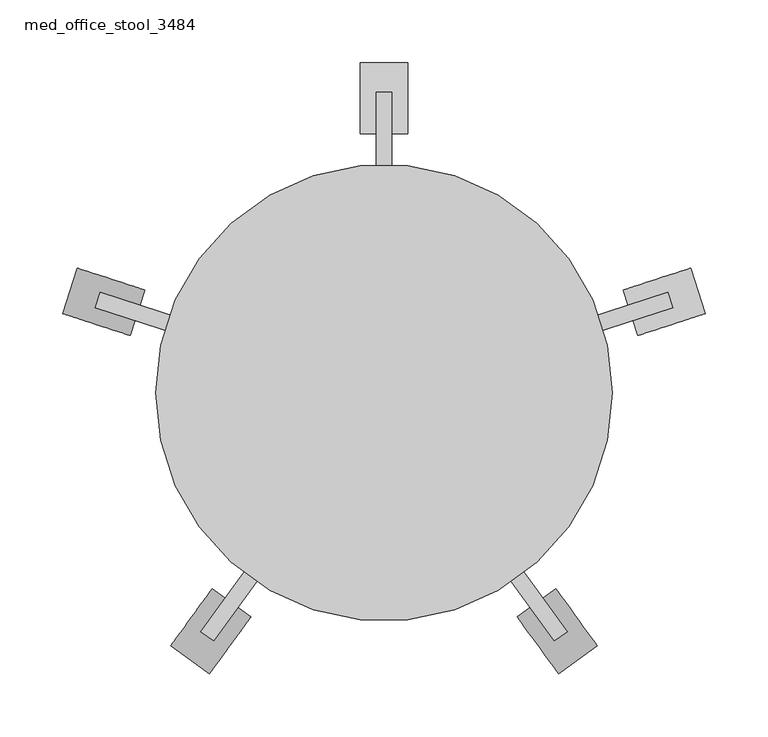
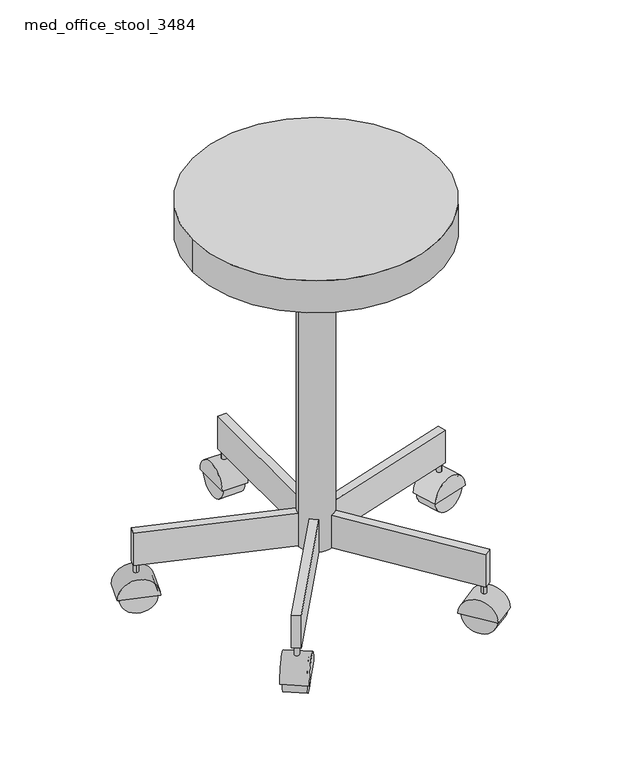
"""IFC4 building model written with IfcOpenShell, lengths in millimetres: furniture geometry, med_office_stool_3484 : pedagogstol fra Mock Up."""

from ifc_helpers import new_model, si_unit, point, frame, frame_2d, origin, origin_2d, place, context, project, spatial, polyline, circle_curve, trimmed, segment, composite_curve, outline, extrude, source, transform, mapped, element, save


def med_office_stool_3484_8b387840(model_context):
    return source(origin(), model_context, "Body", "SweptSolid", [
        extrude(outline(composite_curve([segment(trimmed(circle_curve(frame_2d((0.0, -25.7612183)), 25.7612183), [point((0.0, -51.5224365))], [point((0.0, 0.0))], False, "CARTESIAN"), True, "CONTINUOUS"), segment(trimmed(circle_curve(frame_2d((0.0, -25.7612183)), 25.7612183), [point((0.0, 0.0))], [point((0.0, -51.5224365))], False, "CARTESIAN"), True, "CONTINUOUS")], self_intersect=False)), frame((252.8567313, 65.4661695, 25.7612183), z_axis=(-0.30901699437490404, 0.9510565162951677, 0.0), x_axis=(0.0, 0.0, 1.0)), (0.0, 0.0, 1.0), 31.75),
        extrude(outline(composite_curve([segment(polyline([(-57.1058784, 0.0), (-0.678315, 0.0)]), True, "CONTINUOUS"), segment(trimmed(circle_curve(frame_2d((-28.8920968, 0.0)), 28.2137817), [point((-0.678315, 0.0))], [point((-57.1058784, 0.0))], False, "CARTESIAN"), True, "CONTINUOUS")], self_intersect=False)), frame((256.8155026, 63.4140597, 25.7612183), z_axis=(-0.30901699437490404, 0.9510565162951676, 0.0), x_axis=(0.9510565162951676, 0.30901699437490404, 0.0)), (0.0, 0.0, 1.0), 38.1),
        extrude(outline(composite_curve([segment(trimmed(circle_curve(frame_2d((223.4509477, 72.6028121)), 3.5091751), [point((222.3665529, 75.940236))], [point((224.5353424, 69.2653883))], False, "CARTESIAN"), True, "CONTINUOUS"), segment(trimmed(circle_curve(frame_2d((223.4509477, 72.6028121)), 3.5091751), [point((224.5353424, 69.2653883))], [point((222.3665529, 75.940236))], False, "CARTESIAN"), True, "CONTINUOUS")], self_intersect=False)), frame((0.0, 0.0, 53.975), z_axis=(0.0, 0.0, 1.0), x_axis=(1.0, 0.0, 0.0)), (0.0, 0.0, 1.0), 13.49375),
        extrude(outline(polyline([(230.0293313, 68.0638809), (25.3978935, 1.5750963), (21.4736172, 13.6527769), (226.105055, 80.1415615), (230.0293313, 68.0638809)])), frame((0.0, 0.0, 67.46875), z_axis=(0.0, 0.0, 1.0), x_axis=(1.0, 0.0, 0.0)), (0.0, 0.0, 1.0), 50.8),
        extrude(outline(composite_curve([segment(trimmed(circle_curve(frame_2d((0.0, -25.7612182)), 25.7612183), [point((0.0, -51.5224365))], [point((0.0, 0.0))], False, "CARTESIAN"), True, "CONTINUOUS"), segment(trimmed(circle_curve(frame_2d((0.0, -25.7612182)), 25.7612183), [point((0.0, 0.0))], [point((0.0, -51.5224365))], False, "CARTESIAN"), True, "CONTINUOUS")], self_intersect=False)), frame((140.3990542, -220.250883, 25.7612183), z_axis=(0.8090169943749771, 0.5877852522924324, 0.0), x_axis=(0.0, 0.0, 1.0)), (0.0, 0.0, 1.0), 31.75),
        extrude(outline(composite_curve([segment(polyline([(-57.1058785, 0.0), (-0.6783149, 0.0)]), True, "CONTINUOUS"), segment(trimmed(circle_curve(frame_2d((-28.8920966, 0.0)), 28.2137817), [point((-0.6783149, 0.0))], [point((-57.1058785, 0.0))], False, "CARTESIAN"), True, "CONTINUOUS")], self_intersect=False)), frame((139.6707094, -224.6500351, 25.7612183), z_axis=(0.809016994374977, 0.5877852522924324, 0.0), x_axis=(0.5877852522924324, -0.809016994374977, 0.0)), (0.0, 0.0, 1.0), 38.1),
        extrude(outline(composite_curve([segment(trimmed(circle_curve(frame_2d((138.0995178, -190.0789771)), 3.5091751), [point((140.9385001, -188.0163357))], [point((135.2605355, -192.1416185))], False, "CARTESIAN"), True, "CONTINUOUS"), segment(trimmed(circle_curve(frame_2d((138.0995178, -190.0789771)), 3.5091751), [point((135.2605355, -192.1416185))], [point((140.9385001, -188.0163357))], False, "CARTESIAN"), True, "CONTINUOUS")], self_intersect=False)), frame((0.0, 0.0, 53.975), z_axis=(0.0, 0.0, 1.0), x_axis=(1.0, 0.0, 0.0)), (0.0, 0.0, 1.0), 13.49375),
        extrude(outline(polyline([(135.81557, -197.7379985), (9.3463863, -23.6681006), (19.620275, -16.2036835), (146.0894588, -190.2735815), (135.81557, -197.7379985)])), frame((0.0, 0.0, 67.46875), z_axis=(0.0, 0.0, 1.0), x_axis=(1.0, 0.0, 0.0)), (0.0, 0.0, 1.0), 50.8),
        extrude(outline(composite_curve([segment(trimmed(circle_curve(frame_2d((0.0, -25.7612182)), 25.7612183), [point((0.0, -51.5224365))], [point((0.0, 0.0))], False, "CARTESIAN"), True, "CONTINUOUS"), segment(trimmed(circle_curve(frame_2d((0.0, -25.7612182)), 25.7612183), [point((0.0, 0.0))], [point((0.0, -51.5224365))], False, "CARTESIAN"), True, "CONTINUOUS")], self_intersect=False)), frame((-140.3990542, -220.250883, 25.7612183), z_axis=(-0.8090169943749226, 0.5877852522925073, 0.0), x_axis=(0.0, 0.0, -1.0)), (0.0, 0.0, 1.0), 31.75),
        extrude(outline(composite_curve([segment(trimmed(circle_curve(frame_2d((28.8920966, 0.0)), 28.2137817), [point((57.1058785, 0.0))], [point((0.6783149, 0.0))], False, "CARTESIAN"), True, "CONTINUOUS"), segment(polyline([(0.6783149, 0.0), (57.1058785, 0.0)]), True, "CONTINUOUS")], self_intersect=False)), frame((-139.6707094, -224.6500351, 25.7612183), z_axis=(-0.8090169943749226, 0.5877852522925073, 0.0), x_axis=(0.5877852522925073, 0.8090169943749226, 0.0)), (0.0, 0.0, 1.0), 38.1),
        extrude(outline(composite_curve([segment(trimmed(circle_curve(frame_2d((-138.1007518, -190.0780805)), 3.5091751), [point((-135.2617695, -192.1407219))], [point((-140.9397341, -188.0154391))], False, "CARTESIAN"), True, "CONTINUOUS"), segment(trimmed(circle_curve(frame_2d((-138.1007518, -190.0780805)), 3.5091751), [point((-140.9397341, -188.0154391))], [point((-135.2617695, -192.1407219))], False, "CARTESIAN"), True, "CONTINUOUS")], self_intersect=False)), frame((0.0, 0.0, 53.975), z_axis=(0.0, 0.0, 1.0), x_axis=(1.0, 0.0, 0.0)), (0.0, 0.0, 1.0), 13.49375),
        extrude(outline(polyline([(-146.0906928, -190.2726849), (-19.6215091, -16.2027869), (-9.3476203, -23.667204), (-135.8168041, -197.737102), (-146.0906928, -190.2726849)])), frame((0.0, 0.0, 67.46875), z_axis=(0.0, 0.0, 1.0), x_axis=(1.0, 0.0, 0.0)), (0.0, 0.0, 1.0), 50.8),
        extrude(outline(composite_curve([segment(trimmed(circle_curve(frame_2d((0.0, -25.7612183)), 25.7612183), [point((0.0, -51.5224365))], [point((0.0, 0.0))], False, "CARTESIAN"), True, "CONTINUOUS"), segment(trimmed(circle_curve(frame_2d((0.0, -25.7612183)), 25.7612183), [point((0.0, 0.0))], [point((0.0, -51.5224365))], False, "CARTESIAN"), True, "CONTINUOUS")], self_intersect=False)), frame((-252.8567313, 65.4661695, 25.7612183), z_axis=(0.30901699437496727, 0.9510565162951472, 0.0), x_axis=(0.0, 0.0, -1.0)), (0.0, 0.0, 1.0), 31.75),
        extrude(outline(composite_curve([segment(trimmed(circle_curve(frame_2d((28.8920968, 0.0)), 28.2137817), [point((57.1058784, 0.0))], [point((0.678315, 0.0))], False, "CARTESIAN"), True, "CONTINUOUS"), segment(polyline([(0.678315, 0.0), (57.1058784, 0.0)]), True, "CONTINUOUS")], self_intersect=False)), frame((-256.8155026, 63.4140597, 25.7612183), z_axis=(0.3090169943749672, 0.9510565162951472, 0.0), x_axis=(0.9510565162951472, -0.3090169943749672, 0.0)), (0.0, 0.0, 1.0), 38.1),
        extrude(outline(composite_curve([segment(trimmed(circle_curve(frame_2d((-223.4504763, 72.6042628)), 3.5091751), [point((-224.5348711, 69.266839))], [point((-222.3660816, 75.9416867))], False, "CARTESIAN"), True, "CONTINUOUS"), segment(trimmed(circle_curve(frame_2d((-223.4504763, 72.6042628)), 3.5091751), [point((-222.3660816, 75.9416867))], [point((-224.5348711, 69.266839))], False, "CARTESIAN"), True, "CONTINUOUS")], self_intersect=False)), frame((0.0, 0.0, 53.975), z_axis=(0.0, 0.0, 1.0), x_axis=(1.0, 0.0, 0.0)), (0.0, 0.0, 1.0), 13.49375),
        extrude(outline(polyline([(-226.1045836, 80.1430121), (-21.4731458, 13.6542275), (-25.3974221, 1.576547), (-230.0288599, 68.0653316), (-226.1045836, 80.1430121)])), frame((0.0, 0.0, 67.46875), z_axis=(0.0, 0.0, 1.0), x_axis=(1.0, 0.0, 0.0)), (0.0, 0.0, 1.0), 50.8),
        extrude(outline(composite_curve([segment(trimmed(circle_curve(frame_2d((234.9499827, 25.7612183)), 25.7612183), [point((209.1887644, 25.7612183))], [point((260.7112009, 25.7612183))], False, "CARTESIAN"), True, "CONTINUOUS"), segment(trimmed(circle_curve(frame_2d((234.9499827, 25.7612183)), 25.7612183), [point((260.7112009, 25.7612183))], [point((209.1887644, 25.7612183))], False, "CARTESIAN"), True, "CONTINUOUS")], self_intersect=False)), frame((-15.875, 0.0, 0.0), z_axis=(1.0, 0.0, 0.0), x_axis=(0.0, 1.0, 0.0)), (0.0, 0.0, 1.0), 31.75),
        extrude(outline(composite_curve([segment(trimmed(circle_curve(frame_2d((234.9499827, 25.7612183)), 28.2137817), [point((206.7362009, 25.7612183))], [point((263.1637644, 25.7612183))], False, "CARTESIAN"), True, "CONTINUOUS"), segment(polyline([(263.1637644, 25.7612183), (206.7362009, 25.7612183)]), True, "CONTINUOUS")], self_intersect=False)), frame((-19.05, 0.0, 0.0), z_axis=(1.0, 0.0, 0.0), x_axis=(0.0, 1.0, 0.0)), (0.0, 0.0, 1.0), 38.1),
        extrude(outline(composite_curve([segment(trimmed(circle_curve(frame_2d((0.0007627, 234.9499827)), 3.5091751), [point((-3.5084124, 234.9499827))], [point((3.5099378, 234.9499827))], False, "CARTESIAN"), True, "CONTINUOUS"), segment(trimmed(circle_curve(frame_2d((0.0007627, 234.9499827)), 3.5091751), [point((3.5099378, 234.9499827))], [point((-3.5084124, 234.9499827))], False, "CARTESIAN"), True, "CONTINUOUS")], self_intersect=False)), frame((0.0, 0.0, 53.975), z_axis=(0.0, 0.0, 1.0), x_axis=(1.0, 0.0, 0.0)), (0.0, 0.0, 1.0), 13.49375),
        extrude(outline(polyline([(6.3503751, 239.8037904), (6.3503751, 24.6415636), (-6.3488498, 24.6415636), (-6.3488498, 239.8037904), (6.3503751, 239.8037904)])), frame((0.0, 0.0, 67.46875), z_axis=(0.0, 0.0, 1.0), x_axis=(1.0, 0.0, 0.0)), (0.0, 0.0, 1.0), 50.8),
        extrude(outline(composite_curve([segment(trimmed(circle_curve(origin_2d(), 25.4466483), [point((-25.4466483, 0.0))], [point((25.4466483, 0.0))], False, "CARTESIAN"), True, "CONTINUOUS"), segment(trimmed(circle_curve(origin_2d(), 25.4466483), [point((25.4466483, 0.0))], [point((-25.4466483, 0.0))], False, "CARTESIAN"), True, "CONTINUOUS")], self_intersect=False)), frame((0.0, 0.0, 67.46875), z_axis=(0.0, 0.0, 1.0), x_axis=(1.0, 0.0, 0.0)), (0.0, 0.0, 1.0), 482.53125),
        extrude(outline(composite_curve([segment(trimmed(circle_curve(origin_2d(), 182.0019338), [point((-182.0019338, 0.0))], [point((182.0019338, 0.0))], False, "CARTESIAN"), True, "CONTINUOUS"), segment(trimmed(circle_curve(origin_2d(), 182.0019338), [point((182.0019338, 0.0))], [point((-182.0019338, 0.0))], False, "CARTESIAN"), True, "CONTINUOUS")], self_intersect=False)), frame((0.0, 0.0, 550.0), z_axis=(0.0, 0.0, 1.0), x_axis=(1.0, 0.0, 0.0)), (0.0, 0.0, 1.0), 50.0),
    ])


if __name__ == "__main__":
    model = new_model("IFC4")
    model_context = context("Model", 3, world=origin())
    ifc_project = project(units=[si_unit("LENGTHUNIT", "METRE", prefix="MILLI")], contexts=[model_context])
    site = spatial("IfcSite", under=ifc_project)
    building = spatial("IfcBuilding", under=site)
    placement = place(None, origin())
    med_office_stool_3484_shape = med_office_stool_3484_8b387840(model_context)
    element("IfcFurniture", 1, ObjectType="med_office_stool_3484 : pedagogstol fra Mock Up", at=placement, inside=building, context=model_context, shape_type="MappedRepresentation", body=[
        mapped(med_office_stool_3484_shape, transform((0.0, 0.0, 0.0), x_axis=(1.0, 0.0, 0.0), y_axis=(0.0, 1.0, 0.0), z_axis=(0.0, 0.0, 1.0))),
    ])
    save(model, "model.ifc")
